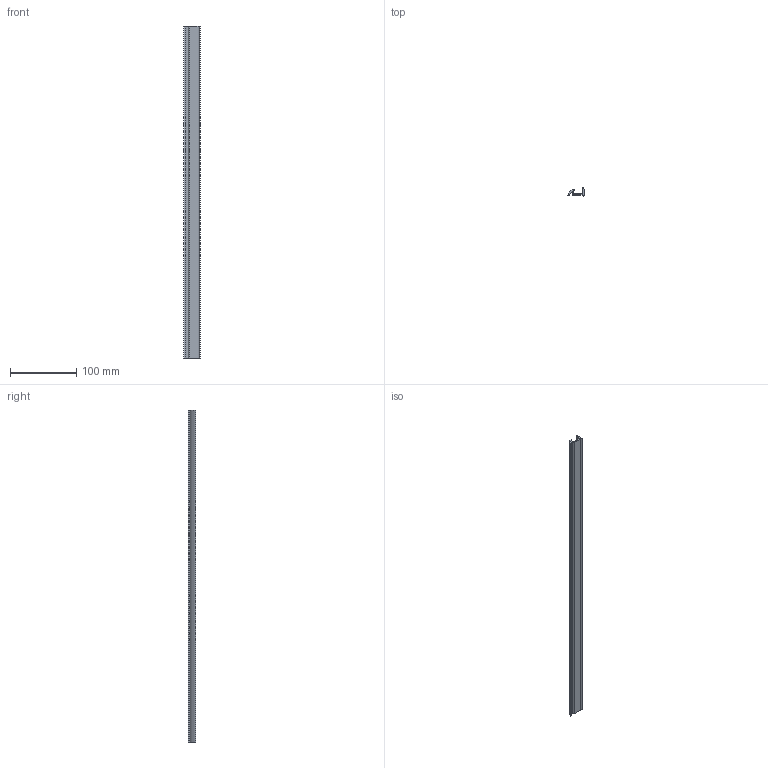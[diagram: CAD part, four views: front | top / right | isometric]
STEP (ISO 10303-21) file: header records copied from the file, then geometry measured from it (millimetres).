
FILE_DESCRIPTION (( 'STEP AP214' ), '1' );
FILE_NAME ('A40711.step', '2024-12-03T16:11:50', ( '' ), ( '' ), 'SwSTEP 2.0', 'SolidWorks 2023', '' );
FILE_SCHEMA (( 'AUTOMOTIVE_DESIGN' ));
Length unit declared in the file: millimetre
Products named in the file (1): A40711
Bounding box: 24.3 x 11.49 x 500 mm (x, y, z)
Volume: 41370.6 mm3; surface area: 44365.8 mm2
Topology: 1 solids, 1 shells, 26 faces, 72 edges, 48 vertices
Faces by surface type: plane 13, cylinder 13
Entity records: 865 total; most frequent: DIRECTION 152, CARTESIAN_POINT 147, ORIENTED_EDGE 144, EDGE_CURVE 72, AXIS2_PLACEMENT_3D 53, VERTEX_POINT 48, VECTOR 46, LINE 46
